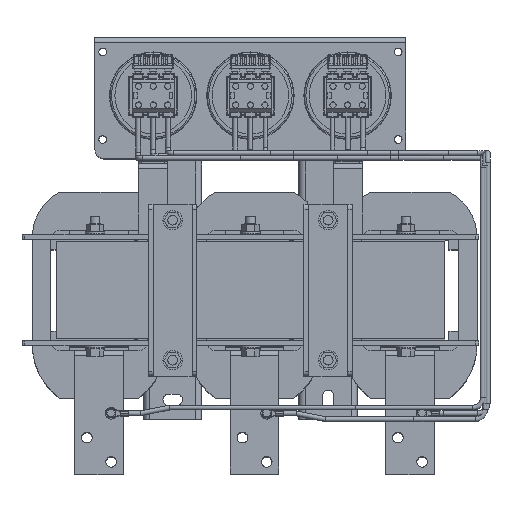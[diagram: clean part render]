
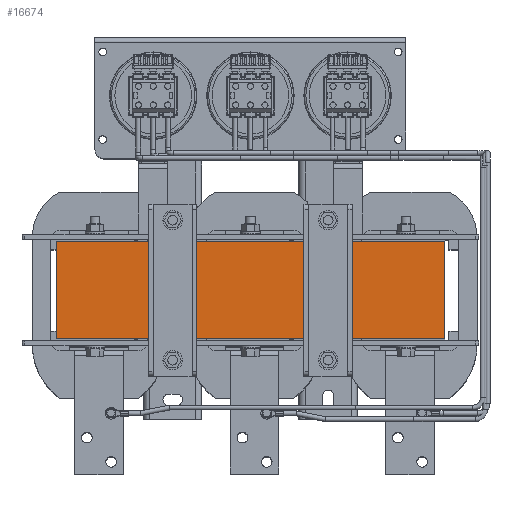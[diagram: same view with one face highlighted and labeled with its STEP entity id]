
A CAD part, top view. The second image highlights one B-rep face of the part: STEP entity #16674.
In plain terms, the highlighted planar face has unit normal (0, 0, 1).
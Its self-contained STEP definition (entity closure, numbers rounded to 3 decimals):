
#2287 = CARTESIAN_POINT ( 'NONE',  ( 200., -99.999, 480. ) ) ;
#12471 = CARTESIAN_POINT ( 'NONE',  ( -200., 0.001, 480. ) ) ;
#12961 = VECTOR ( 'NONE', #19183, 1000. ) ;
#13269 = ORIENTED_EDGE ( 'NONE', *, *, #66380, .F. ) ;
#16321 = CARTESIAN_POINT ( 'NONE',  ( -200., 0.001, 480. ) ) ;
#16674 = ADVANCED_FACE ( 'NONE', ( #76530 ), #77458, .T. ) ;
#18536 = VERTEX_POINT ( 'NONE', #16321 ) ;
#18984 = CARTESIAN_POINT ( 'NONE',  ( -200., 2.001, 480. ) ) ;
#19183 = DIRECTION ( 'NONE',  ( -1., 0., 0. ) ) ;
#19484 = CARTESIAN_POINT ( 'NONE',  ( -200., -99.999, 480. ) ) ;
#20290 = CARTESIAN_POINT ( 'NONE',  ( -200., 2.001, 480. ) ) ;
#23948 = CARTESIAN_POINT ( 'NONE',  ( 200., 2.001, 480. ) ) ;
#30220 = EDGE_LOOP ( 'NONE', ( #13269, #89580, #56764, #79536 ) ) ;
#30580 = VECTOR ( 'NONE', #53325, 1000. ) ;
#33680 = EDGE_CURVE ( 'NONE', #47037, #76965, #50554, .T. ) ;
#36573 = EDGE_CURVE ( 'NONE', #76965, #18536, #85331, .T. ) ;
#40321 = LINE ( 'NONE', #18984, #82450 ) ;
#42847 = AXIS2_PLACEMENT_3D ( 'NONE', #20290, #85081, #91269 ) ;
#47037 = VERTEX_POINT ( 'NONE', #2287 ) ;
#50554 = LINE ( 'NONE', #23948, #30580 ) ;
#53325 = DIRECTION ( 'NONE',  ( 0., 1., 0. ) ) ;
#56764 = ORIENTED_EDGE ( 'NONE', *, *, #36573, .T. ) ;
#57035 = EDGE_CURVE ( 'NONE', #90844, #18536, #40321, .T. ) ;
#63247 = LINE ( 'NONE', #92032, #12961 ) ;
#66380 = EDGE_CURVE ( 'NONE', #47037, #90844, #63247, .T. ) ;
#69084 = DIRECTION ( 'NONE',  ( 0., 1., 0. ) ) ;
#76530 = FACE_OUTER_BOUND ( 'NONE', #30220, .T. ) ;
#76965 = VERTEX_POINT ( 'NONE', #85886 ) ;
#77458 = PLANE ( 'NONE',  #42847 ) ;
#79536 = ORIENTED_EDGE ( 'NONE', *, *, #57035, .F. ) ;
#82450 = VECTOR ( 'NONE', #69084, 1000. ) ;
#84379 = DIRECTION ( 'NONE',  ( -1., 0., 0. ) ) ;
#85081 = DIRECTION ( 'NONE',  ( 0., 0., 1. ) ) ;
#85331 = LINE ( 'NONE', #12471, #91472 ) ;
#85886 = CARTESIAN_POINT ( 'NONE',  ( 200., 0.001, 480. ) ) ;
#89580 = ORIENTED_EDGE ( 'NONE', *, *, #33680, .T. ) ;
#90844 = VERTEX_POINT ( 'NONE', #19484 ) ;
#91269 = DIRECTION ( 'NONE',  ( 1., 0., 0. ) ) ;
#91472 = VECTOR ( 'NONE', #84379, 1000. ) ;
#92032 = CARTESIAN_POINT ( 'NONE',  ( 0., -99.999, 480. ) ) ;
